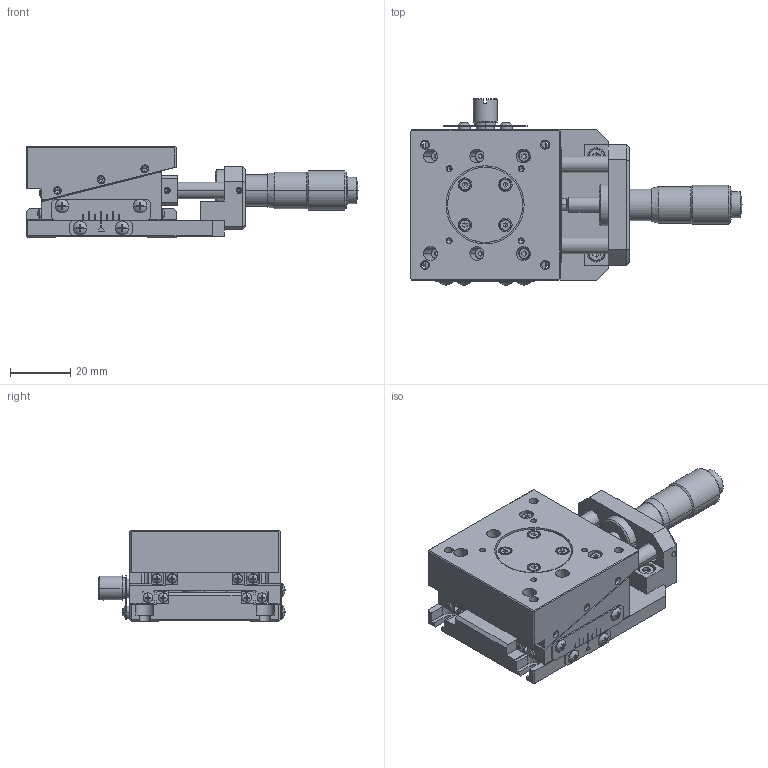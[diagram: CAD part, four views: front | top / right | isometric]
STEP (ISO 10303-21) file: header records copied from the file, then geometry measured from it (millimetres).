
FILE_DESCRIPTION (( 'STEP AP214' ), '1' );
FILE_NAME ('ZM05A-C1C.STEP', '2011-07-19T08:03:39', ( '' ), ( '' ), 'SwSTEP 2.0', 'SolidWorks 2011', '' );
FILE_SCHEMA (( 'AUTOMOTIVE_DESIGN' ));
Length unit declared in the file: millimetre
Products named in the file (7): DP004004-1010-00; DP004004-1010-00-Part-1; DP004004-1020-00; DP004004-1020-00-Part-1; DP004004-1030-00; DP004004-1030-00-Part-1; ZM05A-C1C
Assembly tree (6 placements, depth 3):
  ZM05A-C1C
    DP004004-1010-00
      DP004004-1010-00-Part-1
    DP004004-1020-00
      DP004004-1020-00-Part-1
    DP004004-1030-00
      DP004004-1030-00-Part-1
Bounding box: 110.5 x 61.98 x 30 mm (x, y, z)
Volume: 75711.7 mm3; surface area: 45478.5 mm2
Topology: 3 solids, 83 shells, 2838 faces, 6589 edges, 3935 vertices
Faces by surface type: plane 1510, cylinder 737, cone 533, sphere 48, torus 10
Entity records: 80209 total; most frequent: CARTESIAN_POINT 14711, DIRECTION 14438, ORIENTED_EDGE 12858, EDGE_CURVE 6429, AXIS2_PLACEMENT_3D 5368, VERTEX_POINT 3935, VECTOR 3702, LINE 3702
